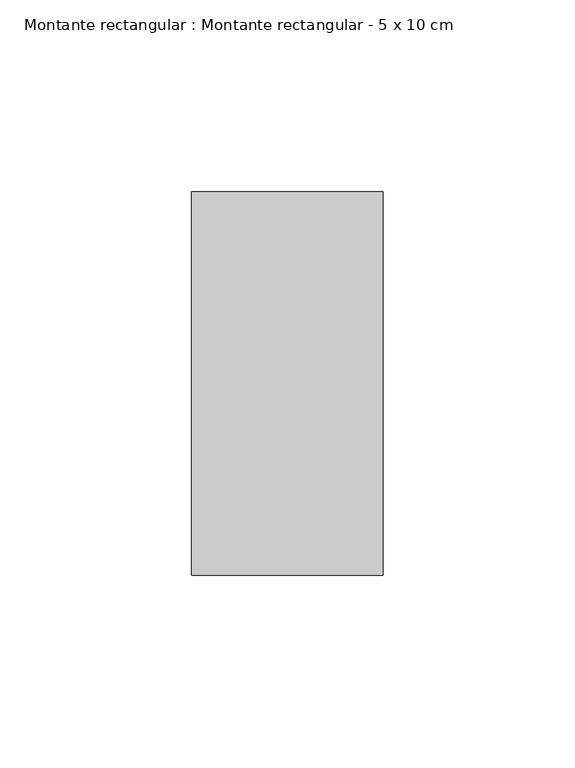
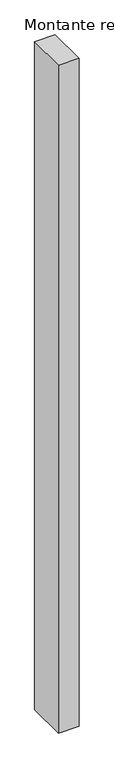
"""IFC4 building model written with IfcOpenShell, lengths in millimetres: member geometry, Montante rectangular : Montante rectangular - 5 x 10 cm."""

from ifc_helpers import new_model, si_unit, frame, origin, place, context, project, spatial, polyline, outline, extrude, source, transform, mapped, element, save


def montante_rectangular_montante_rectangular_5_x_10_cm_70c472f5(model_context):
    return source(origin(), model_context, "Body", "SweptSolid", [
        extrude(outline(polyline([(0.0, -50.0), (-50.0, -50.0), (-50.0, 50.0), (0.0, 50.0), (0.0, -50.0)])), frame((0.0, 0.0, -1718.7191254), z_axis=(0.0, 0.0, 1.0), x_axis=(1.0, 0.0, 0.0)), (0.0, 0.0, 1.0), 1718.7191254),
    ])


if __name__ == "__main__":
    model = new_model("IFC4")
    model_context = context("Model", 3, world=origin())
    ifc_project = project(units=[si_unit("LENGTHUNIT", "METRE", prefix="MILLI")], contexts=[model_context])
    site = spatial("IfcSite", under=ifc_project)
    building = spatial("IfcBuilding", under=site)
    placement = place(None, origin())
    montante_rectangular_montante_rectangular_5_x_10_cm_shape = montante_rectangular_montante_rectangular_5_x_10_cm_70c472f5(model_context)
    element("IfcMember", 1, ObjectType="Montante rectangular : Montante rectangular - 5 x 10 cm", at=placement, inside=building, context=model_context, shape_type="MappedRepresentation", body=[
        mapped(montante_rectangular_montante_rectangular_5_x_10_cm_shape, transform((0.0, 0.0, 0.0), x_axis=(1.0, 0.0, 0.0), y_axis=(0.0, 1.0, 0.0), z_axis=(0.0, 0.0, 1.0))),
    ])
    save(model, "model.ifc")
